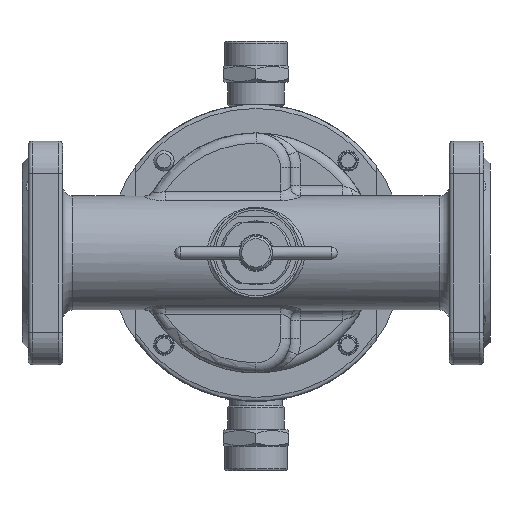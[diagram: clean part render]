
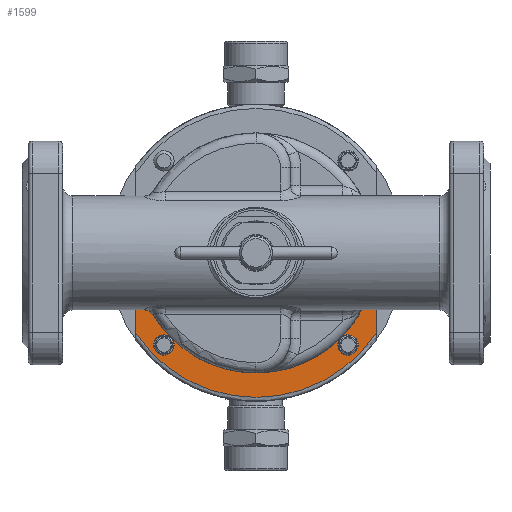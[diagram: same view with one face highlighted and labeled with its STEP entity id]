
A CAD part, front view. The second image highlights one B-rep face of the part: STEP entity #1599.
In plain terms, the highlighted planar face has unit normal (0, -1, 0).
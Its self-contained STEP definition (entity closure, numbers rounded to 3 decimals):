
#1599=ADVANCED_FACE('',(#17136),#17138,.F.);
#17136=FACE_OUTER_BOUND('',#17137,.T.);
#17137=EDGE_LOOP('',(#29497,#29498,#29499,#29500,#29501,#29502,#29503,#29504,#29505,
#29506));
#17138=PLANE('',#17139);
#17139=AXIS2_PLACEMENT_3D('',#17140,#17141,#17142);
#17140=CARTESIAN_POINT('',(0.,39.5,0.));
#17141=DIRECTION('',(0.,1.,0.));
#17142=DIRECTION('',(-1.,0.,0.));
#29497=ORIENTED_EDGE('',*,*,#36887,.F.);
#29498=ORIENTED_EDGE('',*,*,#36888,.F.);
#29499=ORIENTED_EDGE('',*,*,#36889,.F.);
#29500=ORIENTED_EDGE('',*,*,#36866,.F.);
#29501=ORIENTED_EDGE('',*,*,#36890,.F.);
#29502=ORIENTED_EDGE('',*,*,#36860,.F.);
#29503=ORIENTED_EDGE('',*,*,#36891,.F.);
#29504=ORIENTED_EDGE('',*,*,#36892,.F.);
#29505=ORIENTED_EDGE('',*,*,#36893,.F.);
#29506=ORIENTED_EDGE('',*,*,#36894,.F.);
#36860=EDGE_CURVE('',#44512,#44514,#44515,.T.);
#36866=EDGE_CURVE('',#44522,#44524,#44525,.T.);
#36887=EDGE_CURVE('',#44558,#44559,#44560,.T.);
#36888=EDGE_CURVE('',#44559,#44558,#44561,.T.);
#36889=EDGE_CURVE('',#44524,#44559,#44562,.T.);
#36890=EDGE_CURVE('',#44514,#44522,#44563,.T.);
#36891=EDGE_CURVE('',#44564,#44512,#44565,.T.);
#36892=EDGE_CURVE('',#44566,#44564,#44567,.T.);
#36893=EDGE_CURVE('',#44564,#44566,#44568,.T.);
#36894=EDGE_CURVE('',#44559,#44564,#44569,.T.);
#44512=VERTEX_POINT('',#67734);
#44514=VERTEX_POINT('',#67738);
#44515=LINE('',#67739,#67740);
#44522=VERTEX_POINT('',#67809);
#44524=VERTEX_POINT('',#67865);
#44525=LINE('',#67866,#67867);
#44558=VERTEX_POINT('',#68008);
#44559=VERTEX_POINT('',#68009);
#44560=CIRCLE('',#68010,5.);
#44561=CIRCLE('',#68014,5.);
#44562=CIRCLE('',#68018,59.);
#44563=CIRCLE('',#68022,71.);
#44564=VERTEX_POINT('',#68026);
#44565=CIRCLE('',#68027,59.);
#44566=VERTEX_POINT('',#68031);
#44567=CIRCLE('',#68032,5.);
#44568=CIRCLE('',#68036,5.);
#44569=CIRCLE('',#68040,59.);
#67734=CARTESIAN_POINT('',(59.,39.5,0.));
#67738=CARTESIAN_POINT('',(59.,39.5,-39.497));
#67739=CARTESIAN_POINT('',(59.,39.5,0.));
#67740=VECTOR('',#67741,1.);
#67741=DIRECTION('',(0.,0.,-1.));
#67809=CARTESIAN_POINT('',(-59.,39.5,-39.497));
#67865=CARTESIAN_POINT('',(-59.,39.5,0.));
#67866=CARTESIAN_POINT('',(-59.,39.5,-39.497));
#67867=VECTOR('',#67868,1.);
#67868=DIRECTION('',(0.,0.,1.));
#68008=CARTESIAN_POINT('',(-45.255,39.5,-50.255));
#68009=CARTESIAN_POINT('',(-41.719,39.5,-41.719));
#68010=AXIS2_PLACEMENT_3D('',#68011,#68012,#68013);
#68011=CARTESIAN_POINT('',(-45.255,39.5,-45.255));
#68012=DIRECTION('',(0.,-1.,0.));
#68013=DIRECTION('',(0.,0.,-1.));
#68014=AXIS2_PLACEMENT_3D('',#68015,#68016,#68017);
#68015=CARTESIAN_POINT('',(-45.255,39.5,-45.255));
#68016=DIRECTION('',(0.,-1.,0.));
#68017=DIRECTION('',(0.707,0.,0.707));
#68018=AXIS2_PLACEMENT_3D('',#68019,#68020,#68021);
#68019=CARTESIAN_POINT('',(0.,39.5,0.));
#68020=DIRECTION('',(0.,-1.,0.));
#68021=DIRECTION('',(-1.,0.,0.));
#68022=AXIS2_PLACEMENT_3D('',#68023,#68024,#68025);
#68023=CARTESIAN_POINT('',(0.,39.5,0.));
#68024=DIRECTION('',(0.,1.,0.));
#68025=DIRECTION('',(0.831,0.,-0.556));
#68026=CARTESIAN_POINT('',(41.719,39.5,-41.719));
#68027=AXIS2_PLACEMENT_3D('',#68028,#68029,#68030);
#68028=CARTESIAN_POINT('',(0.,39.5,0.));
#68029=DIRECTION('',(0.,-1.,0.));
#68030=DIRECTION('',(0.707,0.,-0.707));
#68031=CARTESIAN_POINT('',(50.255,39.5,-45.255));
#68032=AXIS2_PLACEMENT_3D('',#68033,#68034,#68035);
#68033=CARTESIAN_POINT('',(45.255,39.5,-45.255));
#68034=DIRECTION('',(0.,-1.,0.));
#68035=DIRECTION('',(1.,0.,0.));
#68036=AXIS2_PLACEMENT_3D('',#68037,#68038,#68039);
#68037=CARTESIAN_POINT('',(45.255,39.5,-45.255));
#68038=DIRECTION('',(0.,-1.,0.));
#68039=DIRECTION('',(-0.707,0.,0.707));
#68040=AXIS2_PLACEMENT_3D('',#68041,#68042,#68043);
#68041=CARTESIAN_POINT('',(0.,39.5,0.));
#68042=DIRECTION('',(0.,-1.,0.));
#68043=DIRECTION('',(-0.707,0.,-0.707));
